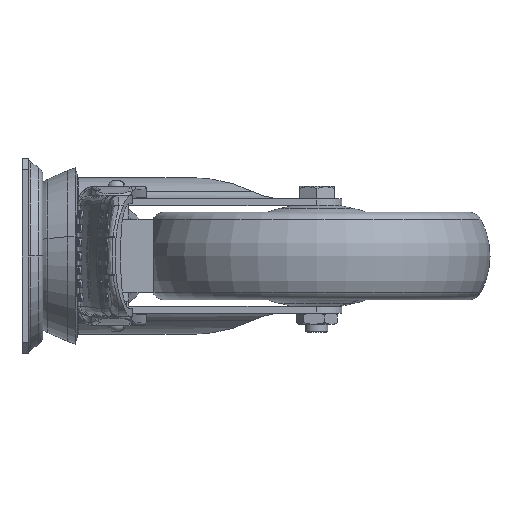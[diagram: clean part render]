
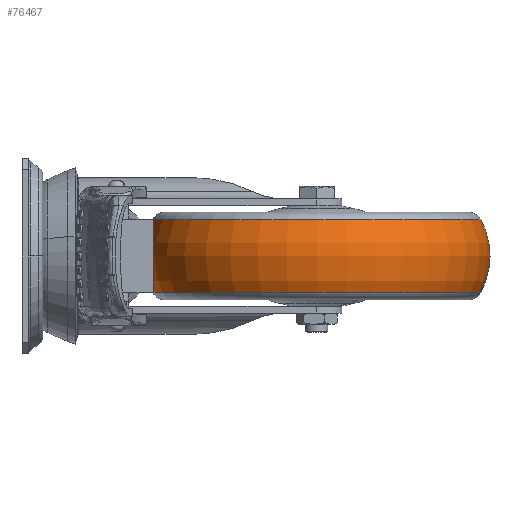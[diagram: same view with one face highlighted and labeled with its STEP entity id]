
A CAD part, left-side view. The second image highlights one B-rep face of the part: STEP entity #76467.
In plain terms, the highlighted toroidal (fillet/blend) face has major radius 34.25 mm and minor radius 28 mm.
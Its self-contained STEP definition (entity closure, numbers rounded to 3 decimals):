
#73048 = CIRCLE ( 'NONE', #73092, 28. ) ;
#73090 = DIRECTION ( 'NONE',  ( 0., 0., -1. ) ) ;
#73091 = DIRECTION ( 'NONE',  ( 1., 0., 0. ) ) ;
#73092 = AXIS2_PLACEMENT_3D ( 'NONE', #73097, #73091, #73090 ) ;
#73097 = CARTESIAN_POINT ( 'NONE',  ( 62.276, -147.338, 70.049 ) ) ;
#73171 = CARTESIAN_POINT ( 'NONE',  ( 62.276, -54.084, 56.962 ) ) ;
#73218 = CARTESIAN_POINT ( 'NONE',  ( 62.276, -172.091, 83.136 ) ) ;
#73253 = CARTESIAN_POINT ( 'NONE',  ( 62.276, -54.084, 83.136 ) ) ;
#73256 = CARTESIAN_POINT ( 'NONE',  ( 62.276, -113.088, 56.962 ) ) ;
#73271 = CARTESIAN_POINT ( 'NONE',  ( 62.276, -113.088, 70.049 ) ) ;
#73278 = FACE_OUTER_BOUND ( 'NONE', #75594, .T. ) ;
#73283 = DIRECTION ( 'NONE',  ( 0., -1., 0. ) ) ;
#73284 = DIRECTION ( 'NONE',  ( 0., 0., -1. ) ) ;
#73285 = AXIS2_PLACEMENT_3D ( 'NONE', #73256, #73284, #73283 ) ;
#73286 = CIRCLE ( 'NONE', #73285, 59.003 ) ;
#73288 = CARTESIAN_POINT ( 'NONE',  ( 62.276, -172.091, 56.962 ) ) ;
#73290 = CARTESIAN_POINT ( 'NONE',  ( 62.276, -78.838, 70.049 ) ) ;
#73303 = AXIS2_PLACEMENT_3D ( 'NONE', #73290, #73341, #73340 ) ;
#73305 = AXIS2_PLACEMENT_3D ( 'NONE', #73271, #73311, #73310 ) ;
#73310 = DIRECTION ( 'NONE',  ( 0., -1., 0. ) ) ;
#73311 = DIRECTION ( 'NONE',  ( 0., 0., -1. ) ) ;
#73313 = TOROIDAL_SURFACE ( 'NONE', #73305, 34.25, 28. ) ;
#73340 = DIRECTION ( 'NONE',  ( 0., 0., 1. ) ) ;
#73341 = DIRECTION ( 'NONE',  ( -1., 0., 0. ) ) ;
#73346 = CIRCLE ( 'NONE', #73303, 28. ) ;
#73600 = DIRECTION ( 'NONE',  ( 0., 0., -1. ) ) ;
#73627 = DIRECTION ( 'NONE',  ( 0., -1., 0. ) ) ;
#73628 = AXIS2_PLACEMENT_3D ( 'NONE', #73646, #73600, #73627 ) ;
#73637 = CIRCLE ( 'NONE', #73628, 59.003 ) ;
#73646 = CARTESIAN_POINT ( 'NONE',  ( 62.276, -113.088, 83.136 ) ) ;
#73811 = ORIENTED_EDGE ( 'NONE', *, *, #74077, .F. ) ;
#73972 = ORIENTED_EDGE ( 'NONE', *, *, #76444, .F. ) ;
#74077 = EDGE_CURVE ( 'NONE', #76414, #76451, #73048, .T. ) ;
#75594 = EDGE_LOOP ( 'NONE', ( #76422, #76468, #73972, #73811 ) ) ;
#76408 = VERTEX_POINT ( 'NONE', #73171 ) ;
#76414 = VERTEX_POINT ( 'NONE', #73218 ) ;
#76422 = ORIENTED_EDGE ( 'NONE', *, *, #76574, .T. ) ;
#76439 = VERTEX_POINT ( 'NONE', #73253 ) ;
#76444 = EDGE_CURVE ( 'NONE', #76451, #76408, #73286, .T. ) ;
#76451 = VERTEX_POINT ( 'NONE', #73288 ) ;
#76467 = ADVANCED_FACE ( 'NONE', ( #73278 ), #73313, .T. ) ;
#76468 = ORIENTED_EDGE ( 'NONE', *, *, #76474, .T. ) ;
#76474 = EDGE_CURVE ( 'NONE', #76439, #76408, #73346, .T. ) ;
#76574 = EDGE_CURVE ( 'NONE', #76414, #76439, #73637, .T. ) ;
